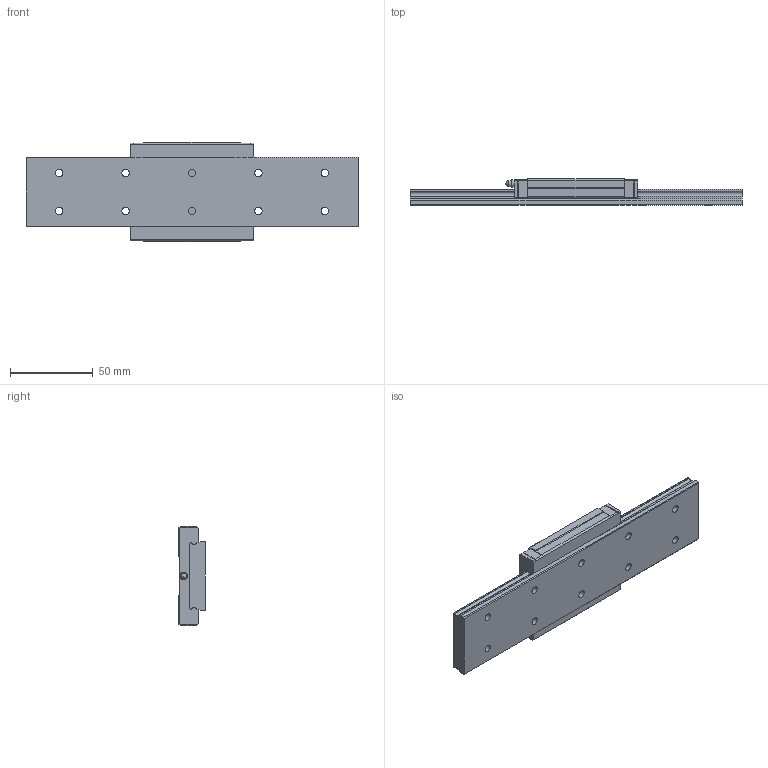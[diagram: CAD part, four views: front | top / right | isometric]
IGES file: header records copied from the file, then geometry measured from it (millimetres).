
Start section: Data from Parasolid IGES Translator 26.0.171, Copyright(c) 2006 Siemens PLM Software. All Rights Reserved.
Global section: file name: RSX15M1WNUU-200LM_G20_0_PB107_62-75_0_0_0_1.igs; native system: By Siemens PLM Incorporated; preprocessor: XPlus GENERIC/IGES 26.0.171; author: Noname; organization: Noname; date: 20240523.083715; units: millimetre
Bounding box: 200 x 16 x 60 mm (x, y, z)
Surface area: 35583.3 mm2 (no closed solid volume)
Topology: 0 solids, 0 shells, 141 faces, 735 edges, 681 vertices
Faces by surface type: extrusion 89, revolution 52
